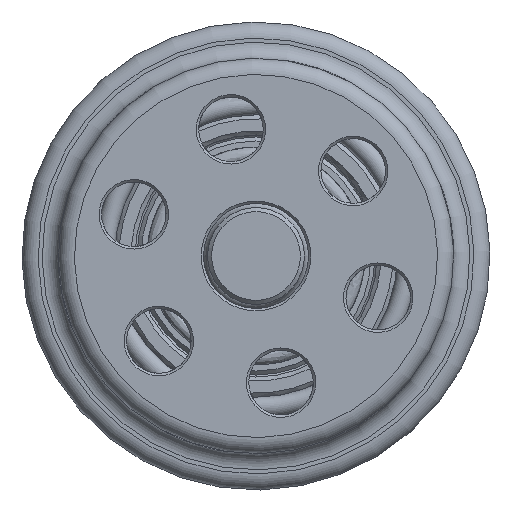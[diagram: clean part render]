
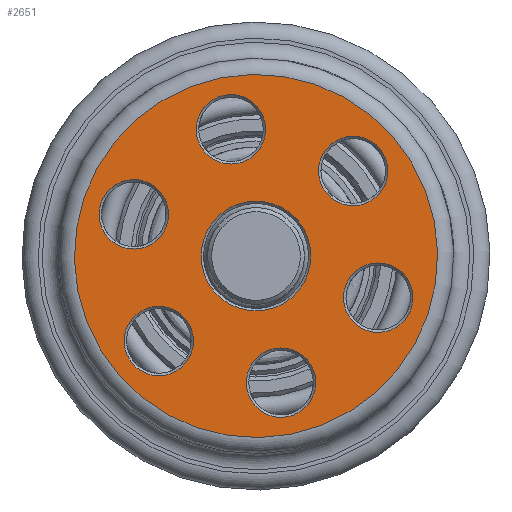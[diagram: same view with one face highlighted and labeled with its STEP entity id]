
A CAD part, left-side view. The second image highlights one B-rep face of the part: STEP entity #2651.
In plain terms, the highlighted planar face has unit normal (-1, 0, 0).
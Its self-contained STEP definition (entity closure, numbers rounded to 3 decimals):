
#526=FACE_BOUND('',#823,.T.);
#527=FACE_BOUND('',#824,.T.);
#528=FACE_BOUND('',#825,.T.);
#529=FACE_BOUND('',#826,.T.);
#530=FACE_BOUND('',#827,.T.);
#531=FACE_BOUND('',#828,.T.);
#532=FACE_BOUND('',#829,.T.);
#661=FACE_OUTER_BOUND('',#822,.T.);
#822=EDGE_LOOP('',(#2360));
#823=EDGE_LOOP('',(#2361));
#824=EDGE_LOOP('',(#2362));
#825=EDGE_LOOP('',(#2363));
#826=EDGE_LOOP('',(#2364));
#827=EDGE_LOOP('',(#2365));
#828=EDGE_LOOP('',(#2366));
#829=EDGE_LOOP('',(#2367));
#1004=CIRCLE('',#2942,4.3);
#1008=CIRCLE('',#2948,4.3);
#1012=CIRCLE('',#2954,4.3);
#1016=CIRCLE('',#2960,4.3);
#1019=CIRCLE('',#2965,4.3);
#1022=CIRCLE('',#2970,4.3);
#1025=CIRCLE('',#2976,6.8);
#1028=CIRCLE('',#2981,22.5);
#1252=VERTEX_POINT('',#7697);
#1255=VERTEX_POINT('',#7708);
#1258=VERTEX_POINT('',#7719);
#1261=VERTEX_POINT('',#7730);
#1263=VERTEX_POINT('',#7739);
#1265=VERTEX_POINT('',#7748);
#1269=VERTEX_POINT('',#7760);
#1271=VERTEX_POINT('',#7769);
#1607=EDGE_CURVE('',#1252,#1252,#1004,.T.);
#1613=EDGE_CURVE('',#1255,#1255,#1008,.T.);
#1619=EDGE_CURVE('',#1258,#1258,#1012,.T.);
#1625=EDGE_CURVE('',#1261,#1261,#1016,.T.);
#1630=EDGE_CURVE('',#1263,#1263,#1019,.T.);
#1635=EDGE_CURVE('',#1265,#1265,#1022,.T.);
#1640=EDGE_CURVE('',#1269,#1269,#1025,.T.);
#1644=EDGE_CURVE('',#1271,#1271,#1028,.T.);
#2360=ORIENTED_EDGE('',*,*,#1644,.F.);
#2361=ORIENTED_EDGE('',*,*,#1607,.T.);
#2362=ORIENTED_EDGE('',*,*,#1613,.T.);
#2363=ORIENTED_EDGE('',*,*,#1619,.T.);
#2364=ORIENTED_EDGE('',*,*,#1625,.T.);
#2365=ORIENTED_EDGE('',*,*,#1630,.T.);
#2366=ORIENTED_EDGE('',*,*,#1635,.T.);
#2367=ORIENTED_EDGE('',*,*,#1640,.F.);
#2522=PLANE('',#2980);
#2651=ADVANCED_FACE('',(#661,#526,#527,#528,#529,#530,#531,#532),#2522,
 .T.);
#2942=AXIS2_PLACEMENT_3D('',#7699,#3643,#3644);
#2948=AXIS2_PLACEMENT_3D('',#7710,#3657,#3658);
#2954=AXIS2_PLACEMENT_3D('',#7721,#3671,#3672);
#2960=AXIS2_PLACEMENT_3D('',#7732,#3685,#3686);
#2965=AXIS2_PLACEMENT_3D('',#7741,#3697,#3698);
#2970=AXIS2_PLACEMENT_3D('',#7750,#3709,#3710);
#2976=AXIS2_PLACEMENT_3D('',#7762,#3723,#3724);
#2980=AXIS2_PLACEMENT_3D('',#7768,#3732,#3733);
#2981=AXIS2_PLACEMENT_3D('',#7770,#3734,#3735);
#3643=DIRECTION('center_axis',(1.,0.,0.));
#3644=DIRECTION('ref_axis',(0.,-0.194,-0.981));
#3657=DIRECTION('center_axis',(1.,0.,0.));
#3658=DIRECTION('ref_axis',(0.,-0.194,-0.981));
#3671=DIRECTION('center_axis',(1.,0.,0.));
#3672=DIRECTION('ref_axis',(0.,-0.194,-0.981));
#3685=DIRECTION('center_axis',(1.,0.,0.));
#3686=DIRECTION('ref_axis',(0.,-0.194,-0.981));
#3697=DIRECTION('center_axis',(1.,0.,0.));
#3698=DIRECTION('ref_axis',(0.,-0.194,-0.981));
#3709=DIRECTION('center_axis',(1.,0.,0.));
#3710=DIRECTION('ref_axis',(0.,-0.194,-0.981));
#3723=DIRECTION('center_axis',(-1.,0.,0.));
#3724=DIRECTION('ref_axis',(0.,0.981,-0.194));
#3732=DIRECTION('center_axis',(-1.,0.,0.));
#3733=DIRECTION('ref_axis',(0.,-0.194,-0.981));
#3734=DIRECTION('center_axis',(1.,0.,0.));
#3735=DIRECTION('ref_axis',(0.,-0.981,0.194));
#7697=CARTESIAN_POINT('',(-23.,-11.208,14.754));
#7699=CARTESIAN_POINT('Origin',(-23.,-12.042,10.536));
#7708=CARTESIAN_POINT('',(-23.,-14.311,-0.942));
#7710=CARTESIAN_POINT('Origin',(-23.,-15.145,-5.16));
#7719=CARTESIAN_POINT('',(-23.,-2.269,-11.478));
#7721=CARTESIAN_POINT('Origin',(-23.,-3.103,-15.696));
#7730=CARTESIAN_POINT('',(-23.,12.876,-6.317));
#7732=CARTESIAN_POINT('Origin',(-23.,12.042,-10.536));
#7739=CARTESIAN_POINT('',(-23.,15.979,9.379));
#7741=CARTESIAN_POINT('Origin',(-23.,15.145,5.16));
#7748=CARTESIAN_POINT('',(-23.,3.937,19.914));
#7750=CARTESIAN_POINT('Origin',(-23.,3.103,15.696));
#7760=CARTESIAN_POINT('',(-23.,-6.671,1.319));
#7762=CARTESIAN_POINT('Origin',(-23.,0.,0.));
#7768=CARTESIAN_POINT('Origin',(-23.,-14.225,2.812));
#7769=CARTESIAN_POINT('',(-23.,-4.364,-22.073));
#7770=CARTESIAN_POINT('Origin',(-23.,0.,0.));
